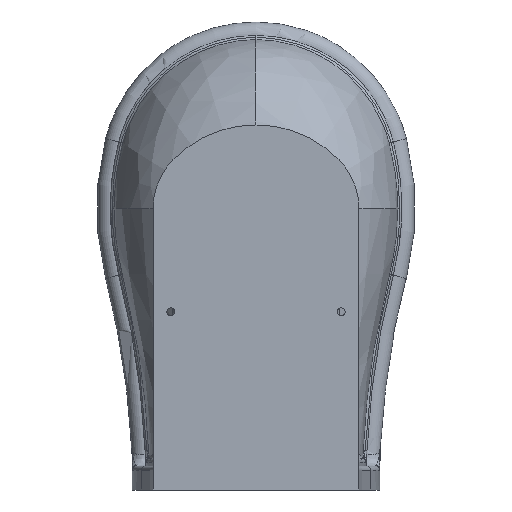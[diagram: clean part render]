
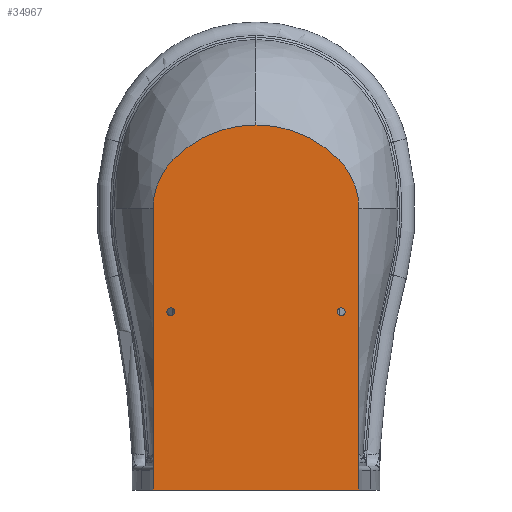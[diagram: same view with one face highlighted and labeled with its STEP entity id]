
A CAD part, front view. The second image highlights one B-rep face of the part: STEP entity #34967.
In plain terms, the highlighted planar face has unit normal (0, -1, 0).
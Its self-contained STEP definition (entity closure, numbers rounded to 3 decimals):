
#1278 = DIRECTION ( 'NONE',  ( 0., 1., 0. ) ) ;
#2221 = DIRECTION ( 'NONE',  ( 0., -1., 0. ) ) ;
#5978 = VECTOR ( 'NONE', #13131, 1000. ) ;
#6061 = FACE_BOUND ( 'NONE', #25561, .T. ) ;
#6174 = CARTESIAN_POINT ( 'NONE',  ( 130., -420., 0. ) ) ;
#8503 = VERTEX_POINT ( 'NONE', #37976 ) ;
#8621 = CIRCLE ( 'NONE', #21256, 87.838 ) ;
#10379 = EDGE_CURVE ( 'NONE', #18289, #39943, #32892, .T. ) ;
#10383 = DIRECTION ( 'NONE',  ( 0., 0., -1. ) ) ;
#11853 = EDGE_CURVE ( 'NONE', #12342, #8503, #36978, .T. ) ;
#12342 = VERTEX_POINT ( 'NONE', #23674 ) ;
#12447 = VERTEX_POINT ( 'NONE', #32214 ) ;
#12932 = CARTESIAN_POINT ( 'NONE',  ( 107.5, -420., 230. ) ) ;
#13131 = DIRECTION ( 'NONE',  ( -1., 0., 0. ) ) ;
#13278 = EDGE_LOOP ( 'NONE', ( #23411, #28418, #36740, #26894, #18017, #36799 ) ) ;
#14217 = EDGE_LOOP ( 'NONE', ( #36779 ) ) ;
#14330 = CARTESIAN_POINT ( 'NONE',  ( 42.162, -420., 355.5 ) ) ;
#14425 = EDGE_CURVE ( 'NONE', #12342, #18289, #8621, .T. ) ;
#15235 = AXIS2_PLACEMENT_3D ( 'NONE', #35519, #16192, #38706 ) ;
#15523 = CARTESIAN_POINT ( 'NONE',  ( -42.162, -420., 355.5 ) ) ;
#15596 = CIRCLE ( 'NONE', #35431, 5. ) ;
#16192 = DIRECTION ( 'NONE',  ( 0., -1., 0. ) ) ;
#17638 = DIRECTION ( 'NONE',  ( 0.714, 0., 0.7 ) ) ;
#18017 = ORIENTED_EDGE ( 'NONE', *, *, #28787, .T. ) ;
#18080 = VERTEX_POINT ( 'NONE', #12932 ) ;
#18244 = CARTESIAN_POINT ( 'NONE',  ( 0., -420., 314.123 ) ) ;
#18289 = VERTEX_POINT ( 'NONE', #33842 ) ;
#18840 = DIRECTION ( 'NONE',  ( 0., 0., 1. ) ) ;
#19238 = EDGE_CURVE ( 'NONE', #12447, #12447, #28374, .T. ) ;
#20129 = CARTESIAN_POINT ( 'NONE',  ( -130., -420., 355.5 ) ) ;
#20780 = CARTESIAN_POINT ( 'NONE',  ( -107.5, -420., 225. ) ) ;
#20974 = LINE ( 'NONE', #20129, #28608 ) ;
#21256 = AXIS2_PLACEMENT_3D ( 'NONE', #14330, #36893, #17638 ) ;
#21533 = DIRECTION ( 'NONE',  ( 0., 0., 1. ) ) ;
#21723 = CARTESIAN_POINT ( 'NONE',  ( 107.5, -420., 225. ) ) ;
#22673 = AXIS2_PLACEMENT_3D ( 'NONE', #18244, #40722, #21533 ) ;
#23411 = ORIENTED_EDGE ( 'NONE', *, *, #37951, .F. ) ;
#23674 = CARTESIAN_POINT ( 'NONE',  ( 104.853, -420., 417.025 ) ) ;
#24095 = DIRECTION ( 'NONE',  ( 0., 0., 1. ) ) ;
#24412 = VECTOR ( 'NONE', #30982, 1000. ) ;
#25027 = DIRECTION ( 'NONE',  ( 0., 0., 1. ) ) ;
#25561 = EDGE_LOOP ( 'NONE', ( #31806 ) ) ;
#26574 = AXIS2_PLACEMENT_3D ( 'NONE', #15523, #38047, #18840 ) ;
#26894 = ORIENTED_EDGE ( 'NONE', *, *, #11853, .T. ) ;
#28374 = CIRCLE ( 'NONE', #38231, 5. ) ;
#28418 = ORIENTED_EDGE ( 'NONE', *, *, #10379, .F. ) ;
#28608 = VECTOR ( 'NONE', #10383, 1000. ) ;
#28787 = EDGE_CURVE ( 'NONE', #8503, #30294, #34081, .T. ) ;
#29802 = EDGE_CURVE ( 'NONE', #30294, #39750, #20974, .T. ) ;
#30087 = CARTESIAN_POINT ( 'NONE',  ( -130., -420., 355.5 ) ) ;
#30294 = VERTEX_POINT ( 'NONE', #30087 ) ;
#30854 = LINE ( 'NONE', #32544, #5978 ) ;
#30982 = DIRECTION ( 'NONE',  ( 0., 0., -1. ) ) ;
#31806 = ORIENTED_EDGE ( 'NONE', *, *, #19238, .T. ) ;
#32214 = CARTESIAN_POINT ( 'NONE',  ( -107.5, -420., 230. ) ) ;
#32544 = CARTESIAN_POINT ( 'NONE',  ( -100., -420., 0. ) ) ;
#32892 = LINE ( 'NONE', #40449, #24412 ) ;
#33842 = CARTESIAN_POINT ( 'NONE',  ( 130., -420., 355.5 ) ) ;
#33905 = FACE_BOUND ( 'NONE', #14217, .T. ) ;
#34081 = CIRCLE ( 'NONE', #15235, 87.838 ) ;
#34867 = PLANE ( 'NONE',  #26574 ) ;
#34967 = ADVANCED_FACE ( 'NONE', ( #6061, #39376, #33905 ), #34867, .F. ) ;
#35431 = AXIS2_PLACEMENT_3D ( 'NONE', #21723, #2221, #25027 ) ;
#35519 = CARTESIAN_POINT ( 'NONE',  ( -42.162, -420., 355.5 ) ) ;
#36740 = ORIENTED_EDGE ( 'NONE', *, *, #14425, .F. ) ;
#36779 = ORIENTED_EDGE ( 'NONE', *, *, #39344, .F. ) ;
#36799 = ORIENTED_EDGE ( 'NONE', *, *, #29802, .T. ) ;
#36893 = DIRECTION ( 'NONE',  ( 0., 1., 0. ) ) ;
#36978 = CIRCLE ( 'NONE', #22673, 146.912 ) ;
#37951 = EDGE_CURVE ( 'NONE', #39943, #39750, #30854, .T. ) ;
#37976 = CARTESIAN_POINT ( 'NONE',  ( -104.853, -420., 417.025 ) ) ;
#38047 = DIRECTION ( 'NONE',  ( 0., 1., 0. ) ) ;
#38231 = AXIS2_PLACEMENT_3D ( 'NONE', #20780, #1278, #24095 ) ;
#38706 = DIRECTION ( 'NONE',  ( -0.714, 0., 0.7 ) ) ;
#39344 = EDGE_CURVE ( 'NONE', #18080, #18080, #15596, .T. ) ;
#39376 = FACE_OUTER_BOUND ( 'NONE', #13278, .T. ) ;
#39750 = VERTEX_POINT ( 'NONE', #39811 ) ;
#39811 = CARTESIAN_POINT ( 'NONE',  ( -130., -420., 0. ) ) ;
#39943 = VERTEX_POINT ( 'NONE', #6174 ) ;
#40449 = CARTESIAN_POINT ( 'NONE',  ( 130., -420., 355.5 ) ) ;
#40722 = DIRECTION ( 'NONE',  ( 0., -1., 0. ) ) ;
